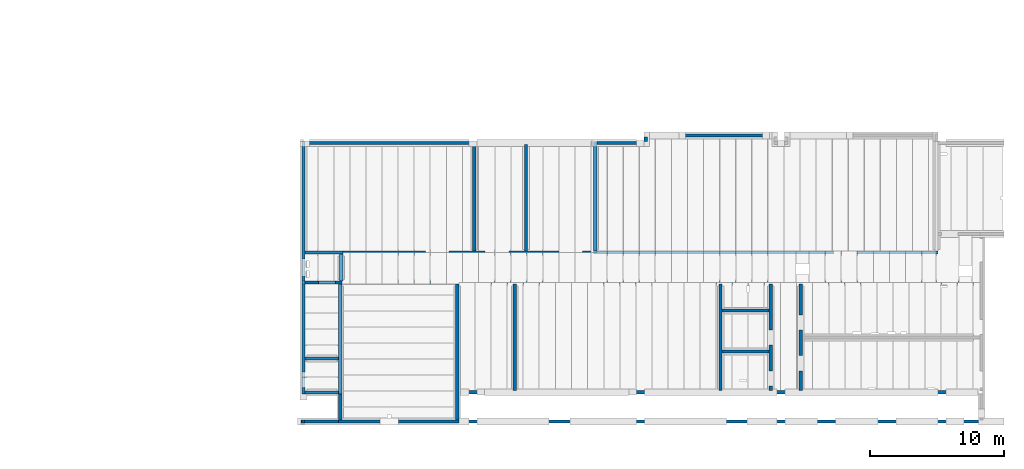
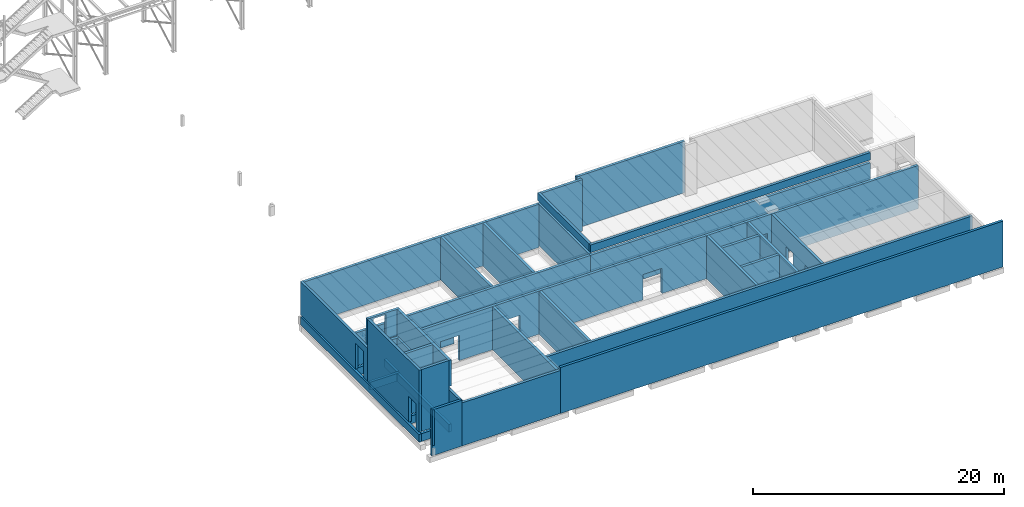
# One storey, part 11 of 24: 41 walls, 17 openings.
"""IFC2X3 building model written with IfcOpenShell, lengths in metres."""

import ifcopenshell
import ifcopenshell.guid

model = None  # the IFC model being written
_history = None  # IfcOwnerHistory: only IFC2X3 demands one
_inside = {}  # id of a spatial element -> (the spatial element, [elements in it])
_under = {}  # id of a project, library or spatial element -> (it, [spatial elements below it])
_declared = {}  # id of a project -> (the project, [libraries it declares])
_typed = {}  # id of a type object -> (the type object, [elements of that type])
_made_of = {}  # id of a material, layer set ... -> (it, [elements and type objects made of it])


def new_model(schema):
    """Start an empty IFC model of exactly this schema.

    Asked for "IFC4X3", IfcOpenShell would pick the latest addendum, in which some entities
    have other attributes; the version numbers below select the first issue.
    IFC2X3 requires an IfcOwnerHistory on every rooted entity: one is made here for all.
    """
    global model, _history
    if schema == "IFC4X3":
        model = ifcopenshell.file(schema_version=(4, 3, 0, 0))
    else:
        model = ifcopenshell.file(schema=schema)
    _inside.clear()
    _under.clear()
    _declared.clear()
    _typed.clear()
    _made_of.clear()
    _history = None
    if model.schema == "IFC2X3":
        org = make("IfcOrganization", Name="unknown")
        user = make(
            "IfcPersonAndOrganization",
            ThePerson=make("IfcPerson", FamilyName="unknown"),
            TheOrganization=org,
        )
        app = make(
            "IfcApplication",
            ApplicationDeveloper=org,
            Version="unknown",
            ApplicationFullName="unknown",
            ApplicationIdentifier="unknown",
        )
        _history = make(
            "IfcOwnerHistory",
            OwningUser=user,
            OwningApplication=app,
            ChangeAction="ADDED",
            CreationDate=0,
        )
    return model


def make(cls, **values):
    """One entity of the class cls with the attributes given. An attribute that is None is left unset."""
    return model.create_entity(
        cls, **{name: value for name, value in values.items() if value is not None}
    )


def entity(cls, *values):
    """Any entity or typed value of the class cls, its attributes in the order of the schema. None: left unset."""
    e = model.create_entity(cls)
    for i, value in enumerate(values):
        if value is not None:
            e[i] = value
    return e


def rooted(cls, **values):
    """An entity with a GlobalId (a new one), such as an element, a storey or a relation."""
    return make(cls, GlobalId=ifcopenshell.guid.new(), OwnerHistory=_history, **values)


def si_unit(unit_type, name, prefix=None):
    """IfcSIUnit, for example si_unit("LENGTHUNIT", "METRE", prefix="MILLI")."""
    return make("IfcSIUnit", UnitType=unit_type, Prefix=prefix, Name=name)


def converted_unit(unit_type, name, factor, base, dimensions=None, offset=None):
    """IfcConversionBasedUnit, such as the inch: factor (a typed value) times the base unit."""
    return make(
        "IfcConversionBasedUnit"
        if offset is None
        else "IfcConversionBasedUnitWithOffset",
        ConversionOffset=offset,
        Dimensions=None
        if dimensions is None
        else entity("IfcDimensionalExponents", *dimensions),
        UnitType=unit_type,
        Name=name,
        ConversionFactor=make(
            "IfcMeasureWithUnit", ValueComponent=factor, UnitComponent=base
        ),
    )


def derived_unit(unit_type, elements):
    """IfcDerivedUnit: a product of units, each with its exponent."""
    return make(
        "IfcDerivedUnit",
        Elements=[
            make("IfcDerivedUnitElement", Unit=unit, Exponent=power)
            for unit, power in elements
        ],
        UnitType=unit_type,
    )


def assignment(units):
    """IfcUnitAssignment: the units of a project."""
    return None if units is None else make("IfcUnitAssignment", Units=units)


def point(xyz):
    """IfcCartesianPoint."""
    return None if xyz is None else make("IfcCartesianPoint", Coordinates=xyz)


def direction(xyz):
    """IfcDirection."""
    return None if xyz is None else make("IfcDirection", DirectionRatios=xyz)


def frame(location, z_axis=None, x_axis=None):
    """IfcAxis2Placement3D, a coordinate frame: its origin and axes. An axis left out is left unset."""
    return make(
        "IfcAxis2Placement3D",
        Location=point(location),
        Axis=direction(z_axis),
        RefDirection=direction(x_axis),
    )


def frame_2d(location, x_axis=None):
    """IfcAxis2Placement2D, a coordinate frame in the plane: its origin and x axis."""
    return make(
        "IfcAxis2Placement2D", Location=point(location), RefDirection=direction(x_axis)
    )


def origin():
    """The frame at (0, 0, 0) with its axes left unset."""
    return frame((0.0, 0.0, 0.0))


def origin_with_axes():
    """The frame at (0, 0, 0) with the z axis (0, 0, 1) and the x axis (1, 0, 0) written out."""
    return frame((0.0, 0.0, 0.0), z_axis=(0.0, 0.0, 1.0), x_axis=(1.0, 0.0, 0.0))


def place(relative_to, where):
    """IfcLocalPlacement: puts the frame where relative to a parent placement (None: the world)."""
    return make(
        "IfcLocalPlacement", PlacementRelTo=relative_to, RelativePlacement=where
    )


def context(
    kind, dimensions, precision=None, world=None, true_north=None, identifier=None
):
    """IfcGeometricRepresentationContext, for example the 3D "Model" context."""
    return make(
        "IfcGeometricRepresentationContext",
        ContextIdentifier=identifier,
        ContextType=kind,
        CoordinateSpaceDimension=dimensions,
        Precision=precision,
        WorldCoordinateSystem=world,
        TrueNorth=true_north,
    )


def subcontext(parent, identifier, kind, view, scale=None):
    """IfcGeometricRepresentationSubContext, for example "Body" below "Model"."""
    return make(
        "IfcGeometricRepresentationSubContext",
        ContextIdentifier=identifier,
        ContextType=kind,
        ParentContext=parent,
        TargetScale=scale,
        TargetView=view,
    )


def project(units=None, contexts=None):
    """IfcProject with its units and contexts."""
    return rooted(
        "IfcProject",
        Name="project",
        RepresentationContexts=contexts,
        UnitsInContext=assignment(units),
    )


def spatial(cls, under=None, at=None, **own):
    """A site, building, storey or space (cls), placed at a placement, below another one or the project."""
    s = rooted(cls, ObjectPlacement=at, **own)
    if under is not None:
        _under.setdefault(under.id(), (under, []))[1].append(s)
    return s


def polyline(points):
    """IfcPolyline through the points."""
    return make("IfcPolyline", Points=[point(p) for p in points])


def profile(cls, at=None, kind="AREA", **sizes):
    """A parametric profile (cls). Its sizes go by their IFC names, for example OverallWidth=200.0."""
    return make(cls, ProfileType=kind, Position=at, **sizes)


def rectangle(**sizes):
    """IfcRectangleProfileDef."""
    return profile("IfcRectangleProfileDef", **sizes)


def outline(outer, holes=None, kind="AREA"):
    """IfcArbitraryClosedProfileDef: a profile drawn as a closed curve; with holes, ...WithVoids."""
    if holes is None:
        return make("IfcArbitraryClosedProfileDef", ProfileType=kind, OuterCurve=outer)
    return make(
        "IfcArbitraryProfileDefWithVoids",
        ProfileType=kind,
        OuterCurve=outer,
        InnerCurves=holes,
    )


def extrude(swept, where, along, depth):
    """IfcExtrudedAreaSolid: the profile swept, set in the frame where, extruded along a direction by depth."""
    return make(
        "IfcExtrudedAreaSolid",
        SweptArea=swept,
        Position=where,
        ExtrudedDirection=direction(along),
        Depth=depth,
    )


def shape(context_of_items, identifier, shape_type, items):
    """IfcShapeRepresentation: the items that make up one representation, for example the "Body"."""
    return make(
        "IfcShapeRepresentation",
        ContextOfItems=context_of_items,
        RepresentationIdentifier=identifier,
        RepresentationType=shape_type,
        Items=items,
    )


def material(Name=None, Category=None):
    """IfcMaterial."""
    return make("IfcMaterial", Name=Name, Category=Category)


def layer(
    of_material, thickness, ventilated=None, Name=None, Category=None, Priority=None
):
    """IfcMaterialLayer: one layer of a wall or slab, of a material (None: an air gap)."""
    return make(
        "IfcMaterialLayer",
        Material=of_material,
        LayerThickness=thickness,
        IsVentilated=ventilated,
        Name=Name,
        Category=Category,
        Priority=Priority,
    )


def layer_set(layers, Name=None):
    """IfcMaterialLayerSet."""
    return make("IfcMaterialLayerSet", MaterialLayers=layers, LayerSetName=Name)


def layer_usage(for_layer_set, set_direction, sense, offset, extent=None):
    """IfcMaterialLayerSetUsage: how a layer set lies in its element."""
    return make(
        "IfcMaterialLayerSetUsage",
        ForLayerSet=for_layer_set,
        LayerSetDirection=set_direction,
        DirectionSense=sense,
        OffsetFromReferenceLine=offset,
        ReferenceExtent=extent,
    )


def made_of(thing, what):
    """Note that an element or type object is made of a material, layer set ...; save() writes the relation."""
    if what is not None:
        _made_of.setdefault(what.id(), (what, []))[1].append(thing)
    return thing


def element(
    cls,
    number,
    at=None,
    inside=None,
    cuts=None,
    type_object=None,
    material=None,
    context=None,
    identifier="Body",
    shape_type=None,
    held_by="IfcProductDefinitionShape",
    body=None,
    shapes=None,
    **own,
):
    """One element of the class cls, such as IfcWall. Its Tag is "e" and its number.

    at: its placement. inside: the storey or other place that contains it. cuts: it is an
    opening in that element (IfcRelVoidsElement). A single representation is given by context,
    identifier, shape_type and body (its items); several are given by shapes. held_by: the class
    of the entity that holds the representations. save() writes the other relations.
    """
    e = rooted(cls, Tag="e%d" % number, ObjectPlacement=at, **own)
    if body is not None:
        shapes = [shape(context, identifier, shape_type, body)]
    if shapes is not None:
        e.Representation = make(held_by, Representations=shapes)
    if inside is not None:
        _inside.setdefault(inside.id(), (inside, []))[1].append(e)
    if cuts is not None:
        rooted(
            "IfcRelVoidsElement", RelatingBuildingElement=cuts, RelatedOpeningElement=e
        )
    if type_object is not None:
        _typed.setdefault(type_object.id(), (type_object, []))[1].append(e)
    return made_of(e, material)


def aggregate(whole, parts):
    """IfcRelAggregates: a whole, such as a stair, and the parts it consists of."""
    return rooted("IfcRelAggregates", RelatingObject=whole, RelatedObjects=parts)


def save(model, path):
    """Write the relations noted so far, then the file.

    IfcRelAggregates (storeys below a building ...), IfcRelContainedInSpatialStructure (elements
    in a storey), IfcRelDefinesByType, IfcRelAssociatesMaterial and IfcRelDeclares: one each for
    every whole, place, type object, material and project.
    """
    for whole, parts in _under.values():
        aggregate(whole, parts)
    for where, things in _inside.values():
        rooted(
            "IfcRelContainedInSpatialStructure",
            RelatedElements=things,
            RelatingStructure=where,
        )
    for kind, things in _typed.values():
        rooted("IfcRelDefinesByType", RelatedObjects=things, RelatingType=kind)
    for what, things in _made_of.values():
        rooted("IfcRelAssociatesMaterial", RelatedObjects=things, RelatingMaterial=what)
    for by, libraries in _declared.values():
        rooted("IfcRelDeclares", RelatingContext=by, RelatedDefinitions=libraries)
    model.write(path)


model = new_model("IFC2X3")

# Units and contexts
model_context = context("Model", 3, precision=1e-05, world=origin())
body_context = subcontext(model_context, "Body", "Model", "MODEL_VIEW")
ifc_project = project(units=[si_unit("LENGTHUNIT", "METRE"), si_unit("AREAUNIT", "SQUARE_METRE"), si_unit("VOLUMEUNIT", "CUBIC_METRE"), si_unit("MASSUNIT", "GRAM", prefix="KILO"), converted_unit("PLANEANGLEUNIT", "DEGREE", entity("IfcPlaneAngleMeasure", 0.0174532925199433), si_unit("PLANEANGLEUNIT", "RADIAN"), dimensions=[0, 0, 0, 0, 0, 0, 0]), derived_unit("THERMALTRANSMITTANCEUNIT", [(si_unit("POWERUNIT", "WATT"), 1), (si_unit("THERMODYNAMICTEMPERATUREUNIT", "KELVIN"), -1), (si_unit("LENGTHUNIT", "METRE"), -2)]), derived_unit("VOLUMETRICFLOWRATEUNIT", [(si_unit("LENGTHUNIT", "METRE"), 3), (converted_unit("TIMEUNIT", "hour", entity("IfcTimeMeasure", 3600.0), si_unit("TIMEUNIT", "SECOND"), dimensions=[0, 0, 1, 0, 0, 0, 0]), -1), (si_unit("LENGTHUNIT", "METRE"), -1)])], contexts=[model_context])

# Site, building, storey
site_placement = place(None, origin())
site = spatial("IfcSite", under=ifc_project, at=site_placement, Name="TWP_Speiseverteilzentrum SBW VZ II", CompositionType="ELEMENT")
building_placement = place(site_placement, origin())
building = spatial("IfcBuilding", under=site, at=building_placement, Name="Speiseverteilzentrum SBW VZ II", CompositionType="ELEMENT")
storey_placement = place(building_placement, frame((0.0, 0.0, 0.6957)))
storey = spatial("IfcBuildingStorey", under=building, at=storey_placement, Name="EG_Technik_FFB", CompositionType="ELEMENT", Elevation=0.6957)

# Walls
ifc_material_1 = material(Name="KS-XL-16-1.8/DM")
ifc_layer_1 = layer(ifc_material_1, 0.24)
ifc_layer_set_1 = layer_set([ifc_layer_1], Name="HI_WAN_MWK_0,240_xxx")
ifc_layer_usage_1 = layer_usage(ifc_layer_set_1, "AXIS2", "POSITIVE", -0.24)
wall_1_placement = place(storey_placement, frame((69.3400000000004, 42.1999999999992, 0.785)))
element("IfcWallStandardCase", 1, at=wall_1_placement, inside=storey, material=ifc_layer_usage_1, Name="HI_WAN_MWK_0,240_xxx", context=body_context, shape_type="SweptSolid", body=[
    extrude(rectangle(XDim=2.81999999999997, YDim=0.24, at=frame_2d((1.40999999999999, 0.12), x_axis=(1.0, 0.0))), origin_with_axes(), (0.0, 0.0, 1.0), 3.215),
])
ifc_material_2 = material(Name="KS-XL-16-1.8/DM")
ifc_layer_2 = layer(ifc_material_2, 0.24)
ifc_layer_set_2 = layer_set([ifc_layer_2], Name="HI_WAN_MWK_0,240_xxx")
ifc_layer_usage_2 = layer_usage(ifc_layer_set_2, "AXIS2", "POSITIVE", -0.24)
wall_2_placement = place(storey_placement, frame((69.3400000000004, 42.1999999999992, -0.19)))
element("IfcWallStandardCase", 2, at=wall_2_placement, inside=storey, material=ifc_layer_usage_2, Name="HI_WAN_MWK_0,240_xxx", context=body_context, shape_type="SweptSolid", body=[
    extrude(rectangle(XDim=2.81999999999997, YDim=0.24, at=frame_2d((1.40999999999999, 0.12), x_axis=(1.0, 0.0))), origin_with_axes(), (0.0, 0.0, 1.0), 0.7551),
])
ifc_material_3 = material(Name="KS-XL-16-1.8/DM")
ifc_layer_3 = layer(ifc_material_3, 0.24)
ifc_layer_set_3 = layer_set([ifc_layer_3], Name="HI_WAN_MWK_0,240_xxx")
ifc_layer_usage_3 = layer_usage(ifc_layer_set_3, "AXIS2", "POSITIVE", -0.24)
wall_3_placement = place(storey_placement, frame((69.1000000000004, 50.6299999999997, -0.19), z_axis=(0.0, 0.0, 1.0), x_axis=(0.0, -1.0, 0.0)))
element("IfcWallStandardCase", 3, at=wall_3_placement, inside=storey, material=ifc_layer_usage_3, Name="HI_WAN_MWK_0,240_xxx", context=body_context, shape_type="SweptSolid", body=[
    extrude(rectangle(XDim=18.877747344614, YDim=0.24, at=frame_2d((9.43887367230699, 0.12), x_axis=(1.0, 0.0))), origin_with_axes(), (0.0, 0.0, 1.0), 0.7551),
])

# Wall, opening
ifc_material_4 = material(Name="KS-XL-16-1.8/DM")
ifc_layer_4 = layer(ifc_material_4, 0.24)
ifc_layer_set_4 = layer_set([ifc_layer_4], Name="HI_WAN_MWK_0,240_xxx")
ifc_layer_usage_4 = layer_usage(ifc_layer_set_4, "AXIS2", "POSITIVE", -0.24)
wall_4_placement = place(storey_placement, frame((69.1000000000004, 50.6299999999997, 0.785), z_axis=(0.0, 0.0, 1.0), x_axis=(0.0, -1.0, 0.0)))
wall_4 = element("IfcWallStandardCase", 4, at=wall_4_placement, inside=storey, material=ifc_layer_usage_4, Name="HI_WAN_MWK_0,240_xxx", context=body_context, shape_type="SweptSolid", body=[
    extrude(rectangle(XDim=10.6700000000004, YDim=0.24, at=frame_2d((5.33500000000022, 0.12), x_axis=(1.0, 0.0))), origin_with_axes(), (0.0, 0.0, 1.0), 3.215),
])
opening_1_placement = place(wall_4_placement, frame((8.79000000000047, 0.0, 0.0), z_axis=(0.0, 1.0, 0.0), x_axis=(0.0, 0.0, 1.0)))
element("IfcOpeningElement", 5, at=opening_1_placement, cuts=wall_4, Name="Mauerwerkswand", ObjectType="SOLIDWALL", context=body_context, shape_type="SweptSolid", body=[
    extrude(outline(polyline([(2.51, 1.26), (2.51, 0.0), (0.0, 0.0), (0.0, 1.26), (2.51, 1.26)])), origin_with_axes(), (0.0, 0.0, 1.0), 0.24),
])

# Walls
ifc_material_5 = material(Name="KS-XL-16-1.8/DM")
ifc_layer_5 = layer(ifc_material_5, 0.24)
ifc_layer_set_5 = layer_set([ifc_layer_5], Name="HI_WAN_MWK_0,240_xxx")
ifc_layer_usage_5 = layer_usage(ifc_layer_set_5, "AXIS2", "POSITIVE", -0.24)
wall_5_placement = place(storey_placement, frame((80.8200000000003, 31.7699999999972, -0.19)))
element("IfcWallStandardCase", 6, at=wall_5_placement, inside=storey, material=ifc_layer_usage_5, Name="HI_WAN_MWK_0,240_xxx", context=body_context, shape_type="SweptSolid", body=[
    extrude(rectangle(XDim=39.1400000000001, YDim=0.24, at=frame_2d((19.57, 0.12), x_axis=(1.0, 0.0))), origin_with_axes(), (0.0, 0.0, 1.0), 4.19),
])
ifc_material_6 = material(Name="KS-XL-16-1.8/DM")
ifc_layer_6 = layer(ifc_material_6, 0.24)
ifc_layer_set_6 = layer_set([ifc_layer_6], Name="HI_WAN_MWK_0,240_xxx")
ifc_layer_usage_6 = layer_usage(ifc_layer_set_6, "AXIS2", "POSITIVE", -0.24)
wall_6_placement = place(storey_placement, frame((100.24, 39.9599999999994, -0.19), z_axis=(0.0, 0.0, 1.0), x_axis=(0.0, -1.0, 0.0)))
element("IfcWallStandardCase", 7, at=wall_6_placement, inside=storey, material=ifc_layer_usage_6, Name="HI_WAN_MWK_0,240_xxx", context=body_context, shape_type="SweptSolid", body=[
    extrude(rectangle(XDim=7.95000000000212, YDim=0.24, at=frame_2d((3.97500000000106, 0.12), x_axis=(1.0, 0.0))), origin_with_axes(), (0.0, 0.0, 1.0), 4.19),
])
ifc_material_7 = material(Name="KS-XL-16-1.8/DM")
ifc_layer_7 = layer(ifc_material_7, 0.24)
ifc_layer_set_7 = layer_set([ifc_layer_7], Name="HI_WAN_MWK_0,240_xxx")
ifc_layer_usage_7 = layer_usage(ifc_layer_set_7, "AXIS2", "POSITIVE", -0.24)
wall_7_placement = place(storey_placement, frame((80.5800000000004, 39.9599999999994, -0.19), z_axis=(0.0, 0.0, 1.0), x_axis=(0.0, -1.0, 0.0)))
element("IfcWallStandardCase", 8, at=wall_7_placement, inside=storey, material=ifc_layer_usage_7, Name="HI_WAN_MWK_0,240_xxx", context=body_context, shape_type="SweptSolid", body=[
    extrude(rectangle(XDim=10.1300000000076, YDim=0.24, at=frame_2d((5.06500000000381, 0.12), x_axis=(1.0, 0.0))), origin_with_axes(), (0.0, 0.0, 1.0), 4.19),
])
ifc_material_8 = material(Name="KS-XL-16-1.8/DM")
ifc_layer_8 = layer(ifc_material_8, 0.24)
ifc_layer_set_8 = layer_set([ifc_layer_8], Name="HI_WAN_MWK_0,240_xxx")
ifc_layer_usage_8 = layer_usage(ifc_layer_set_8, "AXIS2", "POSITIVE", -0.24)
wall_8_placement = place(storey_placement, frame((80.8400000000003, 29.8299999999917, -0.19), z_axis=(0.0, 0.0, 1.0), x_axis=(-1.0, 0.0, 0.0)))
element("IfcWallStandardCase", 9, at=wall_8_placement, inside=storey, material=ifc_layer_usage_8, Name="HI_WAN_MWK_0,240_xxx", context=body_context, shape_type="SweptSolid", body=[
    extrude(rectangle(XDim=9.02, YDim=0.24, at=frame_2d((4.51, 0.12), x_axis=(1.0, 0.0))), origin_with_axes(), (0.0, 0.0, 1.0), 4.19),
])
ifc_material_9 = material(Name="KS-XL-16-1.8/DM")
ifc_layer_9 = layer(ifc_material_9, 0.24)
ifc_layer_set_9 = layer_set([ifc_layer_9], Name="HI_WAN_MWK_0,240_xxx")
ifc_layer_usage_9 = layer_usage(ifc_layer_set_9, "AXIS2", "POSITIVE", -0.24)
wall_9_placement = place(storey_placement, frame((82.0900000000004, 42.4399999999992, -0.19), z_axis=(0.0, 0.0, 1.0), x_axis=(0.0, 1.0, 0.0)))
element("IfcWallStandardCase", 10, at=wall_9_placement, inside=storey, material=ifc_layer_usage_9, Name="HI_WAN_MWK_0,240_xxx", context=body_context, shape_type="SweptSolid", body=[
    extrude(rectangle(XDim=7.95000000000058, YDim=0.24, at=frame_2d((3.97500000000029, 0.12), x_axis=(1.0, 0.0))), origin_with_axes(), (0.0, 0.0, 1.0), 4.19),
])

# Wall, openings
ifc_material_10 = material(Name="KS-XL-16-1.8/DM")
ifc_layer_10 = layer(ifc_material_10, 0.24)
ifc_layer_set_10 = layer_set([ifc_layer_10], Name="HI_WAN_MWK_0,240_xxx")
ifc_layer_usage_10 = layer_usage(ifc_layer_set_10, "AXIS2", "POSITIVE", -0.24)
wall_10_placement = place(storey_placement, frame((106.22, 39.9599999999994, -0.19), z_axis=(0.0, 0.0, 1.0), x_axis=(0.0, -1.0, 0.0)))
wall_10 = element("IfcWallStandardCase", 11, at=wall_10_placement, inside=storey, material=ifc_layer_usage_10, Name="HI_WAN_MWK_0,240_xxx", context=body_context, shape_type="SweptSolid", body=[
    extrude(rectangle(XDim=7.95000000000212, YDim=0.24, at=frame_2d((3.97500000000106, 0.12), x_axis=(1.0, 0.0))), origin_with_axes(), (0.0, 0.0, 1.0), 4.19),
])
opening_2_placement = place(wall_10_placement, frame((6.46250000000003, 0.24, 0.0), z_axis=(0.0, -1.0, 0.0), x_axis=(0.0, 0.0, 1.0)))
element("IfcOpeningElement", 12, at=opening_2_placement, cuts=wall_10, Name="Mauerwerkswand", ObjectType="SOLIDWALL", context=body_context, shape_type="SweptSolid", body=[
    extrude(outline(polyline([(2.45, 1.135), (2.45, 0.0), (0.0, 0.0), (0.0, 1.135), (2.45, 1.135)])), origin_with_axes(), (0.0, 0.0, 1.0), 0.24),
])
opening_3_placement = place(wall_10_placement, frame((3.4200000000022, 0.24, 0.0), z_axis=(0.0, -1.0, 0.0), x_axis=(0.0, 0.0, 1.0)))
element("IfcOpeningElement", 13, at=opening_3_placement, cuts=wall_10, Name="Mauerwerkswand", ObjectType="SOLIDWALL", context=body_context, shape_type="SweptSolid", body=[
    extrude(outline(polyline([(2.45, 1.135), (2.45, 0.0), (0.0, 0.0), (0.0, 1.135), (2.45, 1.135)])), origin_with_axes(), (0.0, 0.0, 1.0), 0.24),
])

# Walls
ifc_material_11 = material(Name="KS-XL-16-1.8/DM")
ifc_layer_11 = layer(ifc_material_11, 0.24)
ifc_layer_set_11 = layer_set([ifc_layer_11], Name="HI_WAN_MWK_0,240_xxx")
ifc_layer_usage_11 = layer_usage(ifc_layer_set_11, "AXIS2", "POSITIVE", -0.24)
wall_11_placement = place(storey_placement, frame((71.8400000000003, 39.9599999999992, 0.785), z_axis=(0.0, 0.0, 1.0), x_axis=(0.0, -1.0, 0.0)))
element("IfcWallStandardCase", 14, at=wall_11_placement, inside=storey, material=ifc_layer_usage_11, Name="HI_WAN_MWK_0,240_xxx", context=body_context, shape_type="SweptSolid", body=[
    extrude(rectangle(XDim=8.20774734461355, YDim=0.24, at=frame_2d((4.10387367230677, 0.12), x_axis=(1.0, 0.0))), origin_with_axes(), (0.0, 0.0, 1.0), 3.215),
])
ifc_material_12 = material(Name="KS-XL-16-1.8/DM")
ifc_layer_12 = layer(ifc_material_12, 0.24)
ifc_layer_set_12 = layer_set([ifc_layer_12], Name="HI_WAN_MWK_0,240_xxx")
ifc_layer_usage_12 = layer_usage(ifc_layer_set_12, "AXIS2", "POSITIVE", -0.24)
wall_12_placement = place(storey_placement, frame((71.8400000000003, 39.9599999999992, -0.19), z_axis=(0.0, 0.0, 1.0), x_axis=(0.0, -1.0, 0.0)))
element("IfcWallStandardCase", 15, at=wall_12_placement, inside=storey, material=ifc_layer_usage_12, Name="HI_WAN_MWK_0,240_xxx", context=body_context, shape_type="SweptSolid", body=[
    extrude(rectangle(XDim=8.20774734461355, YDim=0.24, at=frame_2d((4.10387367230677, 0.12), x_axis=(1.0, 0.0))), origin_with_axes(), (0.0, 0.0, 1.0), 0.7551),
])
ifc_material_13 = material(Name="KS-XL-16-1.8/DM")
ifc_layer_13 = layer(ifc_material_13, 0.24)
ifc_layer_set_13 = layer_set([ifc_layer_13], Name="HI_WAN_MWK_0,240_xxx")
ifc_layer_usage_13 = layer_usage(ifc_layer_set_13, "AXIS2", "POSITIVE", -0.24)
wall_13_placement = place(storey_placement, frame((71.8400000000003, 31.7522526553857, -0.19), z_axis=(0.0, 0.0, 1.0), x_axis=(0.0, -1.0, 0.0)))
element("IfcWallStandardCase", 16, at=wall_13_placement, inside=storey, material=ifc_layer_usage_13, Name="HI_WAN_MWK_0,240_xxx", context=body_context, shape_type="SweptSolid", body=[
    extrude(rectangle(XDim=1.92225265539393, YDim=0.24, at=frame_2d((0.961126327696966, 0.12), x_axis=(1.0, 0.0))), origin_with_axes(), (0.0, 0.0, 1.0), 4.19),
])
ifc_material_14 = material(Name="KS-XL-16-1.8/DM")
ifc_layer_14 = layer(ifc_material_14, 0.24)
ifc_layer_set_14 = layer_set([ifc_layer_14], Name="HI_WAN_MWK_0,240_xxx")
ifc_layer_usage_14 = layer_usage(ifc_layer_set_14, "AXIS2", "POSITIVE", -0.24)
wall_14_placement = place(storey_placement, frame((85.9600000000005, 42.4399999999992, -0.19), z_axis=(0.0, 0.0, 1.0), x_axis=(0.0, 1.0, 0.0)))
element("IfcWallStandardCase", 17, at=wall_14_placement, inside=storey, material=ifc_layer_usage_14, Name="HI_WAN_MWK_0,240_xxx", context=body_context, shape_type="SweptSolid", body=[
    extrude(rectangle(XDim=7.95000000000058, YDim=0.24, at=frame_2d((3.97500000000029, 0.12), x_axis=(1.0, 0.0))), origin_with_axes(), (0.0, 0.0, 1.0), 4.19),
])
ifc_material_15 = material(Name="KS-XL-16-1.8/DM")
ifc_layer_15 = layer(ifc_material_15, 0.239999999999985)
ifc_layer_set_15 = layer_set([ifc_layer_15], Name="HI_WAN_MWK_0,240_xxx")
ifc_layer_usage_15 = layer_usage(ifc_layer_set_15, "AXIS2", "POSITIVE", -0.24)
wall_15_placement = place(storey_placement, frame((94.6516331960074, 50.94, 0.0), z_axis=(0.0, 0.0, 1.0), x_axis=(-3.2859163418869e-13, -1.0, 0.0)))
element("IfcWallStandardCase", 18, at=wall_15_placement, inside=storey, material=ifc_layer_usage_15, Name="HI_WAN_MWK_0,240_xxx", context=body_context, shape_type="SweptSolid", body=[
    extrude(rectangle(XDim=0.310000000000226, YDim=0.239999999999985, at=frame_2d((0.155000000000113, 0.119999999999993), x_axis=(1.0, 0.0))), origin_with_axes(), (0.0, 0.0, 1.0), 5.0),
])

# Wall, opening
ifc_material_16 = material(Name="KS-XL-16-1.8/DM")
ifc_layer_16 = layer(ifc_material_16, 0.24)
ifc_layer_set_16 = layer_set([ifc_layer_16], Name="HI_WAN_MWK_0,240_xxx")
ifc_layer_usage_16 = layer_usage(ifc_layer_set_16, "AXIS2", "POSITIVE", -0.24)
wall_16_placement = place(storey_placement, frame((69.1000000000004, 39.9599999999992, 0.785), z_axis=(0.0, 0.0, 1.0), x_axis=(0.0, -1.0, 0.0)))
wall_16 = element("IfcWallStandardCase", 19, at=wall_16_placement, inside=storey, material=ifc_layer_usage_16, Name="HI_WAN_MWK_0,240_xxx", context=body_context, shape_type="SweptSolid", body=[
    extrude(rectangle(XDim=8.20774734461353, YDim=0.24, at=frame_2d((4.10387367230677, 0.12), x_axis=(1.0, 0.0))), origin_with_axes(), (0.0, 0.0, 1.0), 6.015),
])
opening_4_placement = place(wall_16_placement, frame((6.57274734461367, 0.0, 0.0), z_axis=(0.0, 1.0, 0.0), x_axis=(0.0, 0.0, 1.0)))
element("IfcOpeningElement", 20, at=opening_4_placement, cuts=wall_16, Name="Mauerwerkswand", ObjectType="SOLIDWALL", context=body_context, shape_type="SweptSolid", body=[
    extrude(outline(polyline([(2.51, 1.135), (2.51, 0.0), (0.0, 0.0), (0.0, 1.135), (2.51, 1.135)])), origin_with_axes(), (0.0, 0.0, 1.0), 0.24),
])

# Walls
ifc_material_17 = material(Name="KS-XL-16-1.8/DM")
ifc_layer_17 = layer(ifc_material_17, 0.24)
ifc_layer_set_17 = layer_set([ifc_layer_17], Name="HI_WAN_MWK_0,240_xxx")
ifc_layer_usage_17 = layer_usage(ifc_layer_set_17, "AXIS2", "POSITIVE", -0.24)
wall_17_placement = place(storey_placement, frame((71.8400000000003, 31.9922526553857, 0.785), z_axis=(0.0, 0.0, 1.0), x_axis=(-1.0, 0.0, 0.0)))
element("IfcWallStandardCase", 21, at=wall_17_placement, inside=storey, material=ifc_layer_usage_17, Name="HI_WAN_MWK_0,240_xxx", context=body_context, shape_type="SweptSolid", body=[
    extrude(rectangle(XDim=2.49999999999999, YDim=0.24, at=frame_2d((1.24999999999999, 0.12), x_axis=(1.0, 0.0))), origin_with_axes(), (0.0, 0.0, 1.0), 6.015),
])
ifc_material_18 = material(Name="KS-XL-16-1.8/DM")
ifc_layer_18 = layer(ifc_material_18, 0.24)
ifc_layer_set_18 = layer_set([ifc_layer_18], Name="HI_WAN_MWK_0,240_xxx")
ifc_layer_usage_18 = layer_usage(ifc_layer_set_18, "AXIS2", "POSITIVE", -0.24)
wall_18_placement = place(storey_placement, frame((71.8400000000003, 34.5299999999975, 0.785), z_axis=(0.0, 0.0, 1.0), x_axis=(-1.0, 0.0, 0.0)))
element("IfcWallStandardCase", 22, at=wall_18_placement, inside=storey, material=ifc_layer_usage_18, Name="HI_WAN_MWK_0,240_xxx", context=body_context, shape_type="SweptSolid", body=[
    extrude(rectangle(XDim=2.49999999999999, YDim=0.24, at=frame_2d((1.24999999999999, 0.12), x_axis=(1.0, 0.0))), origin_with_axes(), (0.0, 0.0, 1.0), 6.015),
])
ifc_material_19 = material(Name="KS-XL-16-1.8/DM")
ifc_layer_19 = layer(ifc_material_19, 0.24)
ifc_layer_set_19 = layer_set([ifc_layer_19], Name="HI_WAN_MWK_0,240_xxx")
ifc_layer_usage_19 = layer_usage(ifc_layer_set_19, "AXIS2", "POSITIVE", -0.24)
wall_19_placement = place(storey_placement, frame((72.0800000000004, 40.1999999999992, -0.19), z_axis=(0.0, 0.0, 1.0), x_axis=(-1.0, 0.0, 0.0)))
element("IfcWallStandardCase", 23, at=wall_19_placement, inside=storey, material=ifc_layer_usage_19, Name="HI_WAN_MWK_0,240_xxx", context=body_context, shape_type="SweptSolid", body=[
    extrude(rectangle(XDim=2.73999999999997, YDim=0.24, at=frame_2d((1.36999999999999, 0.12), x_axis=(1.0, 0.0))), origin_with_axes(), (0.0, 0.0, 1.0), 0.7551),
])

# Wall, opening
ifc_material_20 = material(Name="KS-XL-16-1.8/DM")
ifc_layer_20 = layer(ifc_material_20, 0.24)
ifc_layer_set_20 = layer_set([ifc_layer_20], Name="HI_WAN_MWK_0,240_xxx")
ifc_layer_usage_20 = layer_usage(ifc_layer_set_20, "AXIS2", "POSITIVE", -0.24)
wall_20_placement = place(storey_placement, frame((69.3400000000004, 39.9599999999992, 0.785)))
wall_20 = element("IfcWallStandardCase", 24, at=wall_20_placement, inside=storey, material=ifc_layer_usage_20, Name="HI_WAN_MWK_0,240_xxx", context=body_context, shape_type="SweptSolid", body=[
    extrude(rectangle(XDim=2.73999999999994, YDim=0.24, at=frame_2d((1.36999999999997, 0.12), x_axis=(1.0, 0.0))), origin_with_axes(), (0.0, 0.0, 1.0), 3.215),
])
opening_5_placement = place(wall_20_placement, frame((2.27499999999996, 0.24, 0.0), z_axis=(0.0, -1.0, 0.0), x_axis=(0.0, 0.0, 1.0)))
element("IfcOpeningElement", 25, at=opening_5_placement, cuts=wall_20, Name="Mauerwerkswand", ObjectType="SOLIDWALL", context=body_context, shape_type="SweptSolid", body=[
    extrude(outline(polyline([(2.51, 1.26), (2.51, 0.0), (0.0, 0.0), (0.0, 1.26), (2.51, 1.26)])), origin_with_axes(), (0.0, 0.0, 1.0), 0.24),
])

# Wall, openings
ifc_material_21 = material(Name="KS-XL-16-1.8/DM")
ifc_layer_21 = layer(ifc_material_21, 0.24)
ifc_layer_set_21 = layer_set([ifc_layer_21], Name="HI_WAN_MWK_0,240_xxx")
ifc_layer_usage_21 = layer_usage(ifc_layer_set_21, "AXIS2", "POSITIVE", -0.24)
wall_21_placement = place(storey_placement, frame((119.72, 40.1999999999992, -0.19), z_axis=(0.0, 0.0, 1.0), x_axis=(-1.0, 0.0, 0.0)))
wall_21 = element("IfcWallStandardCase", 26, at=wall_21_placement, inside=storey, material=ifc_layer_usage_21, Name="HI_WAN_MWK_0,240_xxx", context=body_context, shape_type="SweptSolid", body=[
    extrude(rectangle(XDim=47.6399999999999, YDim=0.24, at=frame_2d((23.82, 0.12), x_axis=(1.0, 0.0))), origin_with_axes(), (0.0, 0.0, 1.0), 4.19),
])
opening_6_placement = place(wall_21_placement, frame((15.1299999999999, 0.24, 0.0), z_axis=(0.0, -1.0, 0.0), x_axis=(0.0, 0.0, 1.0)))
element("IfcOpeningElement", 27, at=opening_6_placement, cuts=wall_21, Name="Mauerwerkswand", ObjectType="SOLIDWALL", context=body_context, shape_type="SweptSolid", body=[
    extrude(outline(polyline([(2.45, 1.26), (2.45, 0.0), (0.0, 0.0), (0.0, 1.26), (2.45, 1.26)])), origin_with_axes(), (0.0, 0.0, 1.0), 0.24),
])
opening_7_placement = place(wall_21_placement, frame((23.5399999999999, 0.0, 0.0), z_axis=(0.0, 1.0, 0.0), x_axis=(0.0, 0.0, 1.0)))
element("IfcOpeningElement", 28, at=opening_7_placement, cuts=wall_21, Name="Mauerwerkswand", ObjectType="SOLIDWALL", context=body_context, shape_type="SweptSolid", body=[
    extrude(outline(polyline([(2.45, 1.76), (2.45, 0.0), (0.0, 0.0), (0.0, 1.76), (2.45, 1.76)])), origin_with_axes(), (0.0, 0.0, 1.0), 0.24),
])
opening_8_placement = place(wall_21_placement, frame((36.6049999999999, 0.0, 0.0), z_axis=(0.0, 1.0, 0.0), x_axis=(0.0, 0.0, 1.0)))
element("IfcOpeningElement", 29, at=opening_8_placement, cuts=wall_21, Name="Mauerwerkswand", ObjectType="SOLIDWALL", context=body_context, shape_type="SweptSolid", body=[
    extrude(outline(polyline([(2.45, 1.76), (2.45, 0.0), (0.0, 0.0), (0.0, 1.76), (2.45, 1.76)])), origin_with_axes(), (0.0, 0.0, 1.0), 0.24),
])
opening_9_placement = place(wall_21_placement, frame((42.1549999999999, 0.0, 0.0), z_axis=(0.0, 1.0, 0.0), x_axis=(0.0, 0.0, 1.0)))
element("IfcOpeningElement", 30, at=opening_9_placement, cuts=wall_21, Name="Mauerwerkswand", ObjectType="SOLIDWALL", context=body_context, shape_type="SweptSolid", body=[
    extrude(outline(polyline([(2.45, 1.76), (2.45, 0.0), (0.0, 0.0), (0.0, 1.76), (2.45, 1.76)])), origin_with_axes(), (0.0, 0.0, 1.0), 0.24),
])
opening_10_placement = place(wall_21_placement, frame((17.3799999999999, 0.24, 0.0), z_axis=(0.0, -1.0, 0.0), x_axis=(0.0, 0.0, 1.0)))
element("IfcOpeningElement", 31, at=opening_10_placement, cuts=wall_21, Name="Mauerwerkswand", ObjectType="SOLIDWALL", context=body_context, shape_type="SweptSolid", body=[
    extrude(outline(polyline([(2.45, 1.135), (2.45, 0.0), (0.0, 0.0), (0.0, 1.135), (2.45, 1.135)])), origin_with_axes(), (0.0, 0.0, 1.0), 0.24),
])

# Walls
ifc_material_22 = material(Name="KS-XL-16-1.8/DM")
ifc_layer_22 = layer(ifc_material_22, 0.24)
ifc_layer_set_22 = layer_set([ifc_layer_22], Name="HI_WAN_MWK_0,240_xxx")
ifc_layer_usage_22 = layer_usage(ifc_layer_set_22, "AXIS2", "POSITIVE", -0.24)
wall_22_placement = place(storey_placement, frame((84.8650000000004, 39.9599999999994, -0.19), z_axis=(0.0, 0.0, 1.0), x_axis=(0.0, -1.0, 0.0)))
element("IfcWallStandardCase", 32, at=wall_22_placement, inside=storey, material=ifc_layer_usage_22, Name="HI_WAN_MWK_0,240_xxx", context=body_context, shape_type="SweptSolid", body=[
    extrude(rectangle(XDim=7.95000000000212, YDim=0.24, at=frame_2d((3.97500000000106, 0.12), x_axis=(1.0, 0.0))), origin_with_axes(), (0.0, 0.0, 1.0), 4.17),
])
ifc_material_23 = material(Name="KS-XL-16-1.8/DM")
ifc_layer_23 = layer(ifc_material_23, 0.24)
ifc_layer_set_23 = layer_set([ifc_layer_23], Name="HI_WAN_MWK_0,240_xxx")
ifc_layer_usage_23 = layer_usage(ifc_layer_set_23, "AXIS2", "POSITIVE", -0.24)
wall_23_placement = place(storey_placement, frame((103.98, 38.1099999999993, -0.19), z_axis=(0.0, 0.0, 1.0), x_axis=(-1.0, 0.0, 0.0)))
element("IfcWallStandardCase", 33, at=wall_23_placement, inside=storey, material=ifc_layer_usage_23, Name="HI_WAN_MWK_0,240_xxx", context=body_context, shape_type="SweptSolid", body=[
    extrude(rectangle(XDim=3.5, YDim=0.24, at=frame_2d((1.75, 0.12), x_axis=(1.0, 0.0))), origin_with_axes(), (0.0, 0.0, 1.0), 4.17),
])

# Wall, openings
ifc_material_24 = material(Name="KS-XL-16-1.8/DM")
ifc_layer_24 = layer(ifc_material_24, 0.24)
ifc_layer_set_24 = layer_set([ifc_layer_24], Name="HI_WAN_MWK_0,240_xxx")
ifc_layer_usage_24 = layer_usage(ifc_layer_set_24, "AXIS2", "POSITIVE", -0.24)
wall_24_placement = place(storey_placement, frame((103.98, 39.9599999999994, -0.19), z_axis=(0.0, 0.0, 1.0), x_axis=(0.0, -1.0, 0.0)))
wall_24 = element("IfcWallStandardCase", 34, at=wall_24_placement, inside=storey, material=ifc_layer_usage_24, Name="HI_WAN_MWK_0,240_xxx", context=body_context, shape_type="SweptSolid", body=[
    extrude(rectangle(XDim=7.95000000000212, YDim=0.24, at=frame_2d((3.97500000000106, 0.12), x_axis=(1.0, 0.0))), origin_with_axes(), (0.0, 0.0, 1.0), 4.17),
])
opening_11_placement = place(wall_24_placement, frame((7.59750000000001, 0.24, 0.0), z_axis=(0.0, -1.0, 0.0), x_axis=(0.0, 0.0, 1.0)))
element("IfcOpeningElement", 35, at=opening_11_placement, cuts=wall_24, Name="Mauerwerkswand", ObjectType="SOLIDWALL", context=body_context, shape_type="SweptSolid", body=[
    extrude(outline(polyline([(2.45, 1.135), (2.45, 0.0), (0.0, 0.0), (0.0, 1.135), (2.45, 1.135)])), origin_with_axes(), (0.0, 0.0, 1.0), 0.24),
])
opening_12_placement = place(wall_24_placement, frame((4.5550000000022, 0.24, 0.0), z_axis=(0.0, -1.0, 0.0), x_axis=(0.0, 0.0, 1.0)))
element("IfcOpeningElement", 36, at=opening_12_placement, cuts=wall_24, Name="Mauerwerkswand", ObjectType="SOLIDWALL", context=body_context, shape_type="SweptSolid", body=[
    extrude(outline(polyline([(2.45, 1.135), (2.45, 0.0), (0.0, 0.0), (0.0, 1.135), (2.45, 1.135)])), origin_with_axes(), (0.0, 0.0, 1.0), 0.24),
])

# Walls
ifc_material_25 = material(Name="KS-XL-16-1.8/DM")
ifc_layer_25 = layer(ifc_material_25, 0.24)
ifc_layer_set_25 = layer_set([ifc_layer_25], Name="HI_WAN_MWK_0,240_xxx")
ifc_layer_usage_25 = layer_usage(ifc_layer_set_25, "AXIS2", "POSITIVE", -0.24)
wall_25_placement = place(storey_placement, frame((103.98, 35.0499999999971, -0.19), z_axis=(0.0, 0.0, 1.0), x_axis=(-1.0, 0.0, 0.0)))
element("IfcWallStandardCase", 37, at=wall_25_placement, inside=storey, material=ifc_layer_usage_25, Name="HI_WAN_MWK_0,240_xxx", context=body_context, shape_type="SweptSolid", body=[
    extrude(rectangle(XDim=3.5, YDim=0.24, at=frame_2d((1.75, 0.12), x_axis=(1.0, 0.0))), origin_with_axes(), (0.0, 0.0, 1.0), 4.17),
])
ifc_material_26 = material(Name="KS-XL-16-1.8/DM")
ifc_layer_26 = layer(ifc_material_26, 0.24)
ifc_layer_set_26 = layer_set([ifc_layer_26], Name="HI_WAN_MWK_0,240_xxx")
ifc_layer_usage_26 = layer_usage(ifc_layer_set_26, "AXIS2", "POSITIVE", -0.24)
wall_26_placement = place(storey_placement, frame((104.605, 51.1799999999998, 0.0), z_axis=(0.0, 0.0, 1.0), x_axis=(-1.0, -7.31004669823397e-16, 0.0)))
element("IfcWallStandardCase", 38, at=wall_26_placement, inside=storey, material=ifc_layer_usage_26, Name="HI_WAN_MWK_0,240_xxx", context=body_context, shape_type="SweptSolid", body=[
    extrude(rectangle(XDim=9.95336680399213, YDim=0.24, at=frame_2d((4.97668340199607, 0.12), x_axis=(1.0, 0.0))), origin_with_axes(), (0.0, 0.0, 1.0), 5.0),
])
ifc_material_27 = material(Name="KS-XL-16-1.8/DM")
ifc_layer_27 = layer(ifc_material_27, 0.24)
ifc_layer_set_27 = layer_set([ifc_layer_27], Name="HI_WAN_MWK_0,240_xxx")
ifc_layer_usage_27 = layer_usage(ifc_layer_set_27, "AXIS2", "POSITIVE", -0.24)
wall_27_placement = place(storey_placement, frame((94.8916331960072, 50.6299999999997, 0.0), z_axis=(0.0, 0.0, 1.0), x_axis=(-1.0, 0.0, 0.0)))
element("IfcWallStandardCase", 39, at=wall_27_placement, inside=storey, material=ifc_layer_usage_27, Name="HI_WAN_MWK_0,240_xxx", context=body_context, shape_type="SweptSolid", body=[
    extrude(rectangle(XDim=3.77163319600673, YDim=0.24, at=frame_2d((1.88581659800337, 0.12), x_axis=(1.0, 0.0))), origin_with_axes(), (0.0, 0.0, 1.0), 5.0),
])
ifc_material_28 = material(Name="KS-XL-16-1.8/DM")
ifc_layer_28 = layer(ifc_material_28, 0.240000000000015)
ifc_layer_set_28 = layer_set([ifc_layer_28], Name="HI_WAN_MWK_0,240_xxx")
ifc_layer_usage_28 = layer_usage(ifc_layer_set_28, "AXIS2", "POSITIVE", -0.240000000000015)
wall_28_placement = place(storey_placement, frame((91.1200000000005, 42.4399999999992, 0.0), z_axis=(0.0, 0.0, 1.0), x_axis=(0.0, 1.0, 0.0)))
element("IfcWallStandardCase", 40, at=wall_28_placement, inside=storey, material=ifc_layer_usage_28, Name="HI_WAN_MWK_0,240_xxx", context=body_context, shape_type="SweptSolid", body=[
    extrude(rectangle(XDim=8.19000000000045, YDim=0.240000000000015, at=frame_2d((4.09500000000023, 0.120000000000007), x_axis=(1.0, 0.0))), origin_with_axes(), (0.0, 0.0, 1.0), 4.0),
])

# Wall, opening
ifc_material_29 = material(Name="KS-XL-16-1.8/DM")
ifc_layer_29 = layer(ifc_material_29, 0.24)
ifc_layer_set_29 = layer_set([ifc_layer_29], Name="HI_WAN_MWK_0,240_xxx")
ifc_layer_usage_29 = layer_usage(ifc_layer_set_29, "AXIS2", "POSITIVE", -0.24)
wall_29_placement = place(storey_placement, frame((116.59, 42.4399999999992, 0.0), z_axis=(0.0, 0.0, 1.0), x_axis=(-1.0, 0.0, 0.0)))
wall_29 = element("IfcWallStandardCase", 41, at=wall_29_placement, inside=storey, material=ifc_layer_usage_29, Name="HI_WAN_MWK_0,240_xxx", context=body_context, shape_type="SweptSolid", body=[
    extrude(rectangle(XDim=25.7099999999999, YDim=0.24, at=frame_2d((12.855, 0.12), x_axis=(1.0, 0.0))), origin_with_axes(), (0.0, 0.0, 1.0), 4.0),
])
opening_13_placement = place(wall_29_placement, frame((5.99500000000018, 0.0, 0.0), z_axis=(0.0, 1.0, 0.0), x_axis=(0.0, 0.0, 1.0)))
element("IfcOpeningElement", 42, at=opening_13_placement, cuts=wall_29, Name="Mauerwerkswand", ObjectType="SOLIDWALL", context=body_context, shape_type="SweptSolid", body=[
    extrude(outline(polyline([(2.26, 1.76), (2.26, 0.0), (0.0, 0.0), (0.0, 1.76), (2.26, 1.76)])), origin_with_axes(), (0.0, 0.0, 1.0), 0.24),
])

# Wall, openings
ifc_material_30 = material(Name="KS-XL-16-1.8/DM")
ifc_layer_30 = layer(ifc_material_30, 0.24)
ifc_layer_set_30 = layer_set([ifc_layer_30], Name="HI_WAN_MWK_0,240_xxx")
ifc_layer_usage_30 = layer_usage(ifc_layer_set_30, "AXIS2", "POSITIVE", -0.24)
wall_30_placement = place(storey_placement, frame((90.8800000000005, 42.4399999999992, -0.19), z_axis=(0.0, 0.0, 1.0), x_axis=(-1.0, 0.0, 0.0)))
wall_30 = element("IfcWallStandardCase", 43, at=wall_30_placement, inside=storey, material=ifc_layer_usage_30, Name="HI_WAN_MWK_0,240_xxx", context=body_context, shape_type="SweptSolid", body=[
    extrude(rectangle(XDim=18.7200000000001, YDim=0.24, at=frame_2d((9.36000000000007, 0.12), x_axis=(1.0, 0.0))), origin_with_axes(), (0.0, 0.0, 1.0), 4.19),
])
opening_14_placement = place(wall_30_placement, frame((0.830000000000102, 0.0, 0.0), z_axis=(0.0, 1.0, 0.0), x_axis=(0.0, 0.0, 1.0)))
element("IfcOpeningElement", 44, at=opening_14_placement, cuts=wall_30, Name="Mauerwerkswand", ObjectType="SOLIDWALL", context=body_context, shape_type="SweptSolid", body=[
    extrude(outline(polyline([(2.45, 1.76), (2.45, 0.0), (0.0, 0.0), (0.0, 1.76), (2.45, 1.76)])), origin_with_axes(), (0.0, 0.0, 1.0), 0.24),
])
opening_15_placement = place(wall_30_placement, frame((6.33500000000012, 0.0, 0.0), z_axis=(0.0, 1.0, 0.0), x_axis=(0.0, 0.0, 1.0)))
element("IfcOpeningElement", 45, at=opening_15_placement, cuts=wall_30, Name="Mauerwerkswand", ObjectType="SOLIDWALL", context=body_context, shape_type="SweptSolid", body=[
    extrude(outline(polyline([(2.45, 1.76), (2.45, 0.0), (0.0, 0.0), (0.0, 1.76), (2.45, 1.76)])), origin_with_axes(), (0.0, 0.0, 1.0), 0.24),
])
opening_16_placement = place(wall_30_placement, frame((10.7800000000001, 0.0, 0.0), z_axis=(0.0, 1.0, 0.0), x_axis=(0.0, 0.0, 1.0)))
element("IfcOpeningElement", 46, at=opening_16_placement, cuts=wall_30, Name="Mauerwerkswand", ObjectType="SOLIDWALL", context=body_context, shape_type="SweptSolid", body=[
    extrude(outline(polyline([(2.45, 1.76), (2.45, 0.0), (0.0, 0.0), (0.0, 1.76), (2.45, 1.76)])), origin_with_axes(), (0.0, 0.0, 1.0), 0.24),
])

# Walls
ifc_material_31 = material(Name="KS-XL-16-1.8/DM")
ifc_layer_31 = layer(ifc_material_31, 0.24)
ifc_layer_set_31 = layer_set([ifc_layer_31], Name="HI_WAN_MWK_0,240_xxx")
ifc_layer_usage_31 = layer_usage(ifc_layer_set_31, "AXIS2", "POSITIVE", -0.24)
wall_31_placement = place(storey_placement, frame((90.8800000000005, 50.6299999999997, -0.19), z_axis=(0.0, 0.0, 1.0), x_axis=(-1.0, -6.75576380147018e-16, 0.0)))
element("IfcWallStandardCase", 47, at=wall_31_placement, inside=storey, material=ifc_layer_usage_31, Name="HI_WAN_MWK_0,240_xxx", context=body_context, shape_type="SweptSolid", body=[
    extrude(rectangle(XDim=21.5400000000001, YDim=0.24, at=frame_2d((10.7700000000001, 0.12), x_axis=(1.0, 0.0))), origin_with_axes(), (0.0, 0.0, 1.0), 4.19),
])
ifc_material_32 = material(Name="KS-XL-16-1.8/DM")
ifc_layer_32 = layer(ifc_material_32, 0.24)
ifc_layer_set_32 = layer_set([ifc_layer_32], Name="HI_WAN_MWK_0,240_xxx")
ifc_layer_usage_32 = layer_usage(ifc_layer_set_32, "AXIS2", "POSITIVE", -0.24)
wall_32_placement = place(storey_placement, frame((121.520000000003, 29.8299999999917, -0.19), z_axis=(0.0, 0.0, 1.0), x_axis=(-1.0, 0.0, 0.0)))
element("IfcWallStandardCase", 48, at=wall_32_placement, inside=storey, material=ifc_layer_usage_32, Name="HI_WAN_MWK_0,240_xxx", context=body_context, shape_type="SweptSolid", body=[
    extrude(rectangle(XDim=40.6800000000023, YDim=0.24, at=frame_2d((20.3400000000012, 0.12), x_axis=(1.0, 0.0))), origin_with_axes(), (0.0, 0.0, 1.0), 4.455),
])
ifc_material_33 = material(Name="KS-XL-16-1.8/DM")
ifc_layer_33 = layer(ifc_material_33, 0.24)
ifc_layer_set_33 = layer_set([ifc_layer_33], Name="HI_WAN_MWK_0,240_xxx")
ifc_layer_usage_33 = layer_usage(ifc_layer_set_33, "AXIS2", "POSITIVE", -0.24)
wall_33_placement = place(storey_placement, frame((116.59, 42.4399999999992, 4.265), z_axis=(0.0, 0.0, 1.0), x_axis=(-1.0, 0.0, 0.0)))
element("IfcWallStandardCase", 49, at=wall_33_placement, inside=storey, material=ifc_layer_usage_33, Name="HI_WAN_MWK_0,240_xxx", context=body_context, shape_type="SweptSolid", body=[
    extrude(rectangle(XDim=25.7099999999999, YDim=0.24, at=frame_2d((12.855, 0.12), x_axis=(1.0, 0.0))), origin_with_axes(), (0.0, 0.0, 1.0), 0.735),
])
ifc_material_34 = material(Name="KS-XL-16-1.8/DM")
ifc_layer_34 = layer(ifc_material_34, 0.24)
ifc_layer_set_34 = layer_set([ifc_layer_34], Name="HI_WAN_MWK_0,240_xxx")
ifc_layer_usage_34 = layer_usage(ifc_layer_set_34, "AXIS2", "POSITIVE", -0.24)
wall_34_placement = place(storey_placement, frame((91.1200000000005, 42.4399999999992, 4.265), z_axis=(0.0, 0.0, 1.0), x_axis=(0.0, 1.0, 0.0)))
element("IfcWallStandardCase", 50, at=wall_34_placement, inside=storey, material=ifc_layer_usage_34, Name="HI_WAN_MWK_0,240_xxx", context=body_context, shape_type="SweptSolid", body=[
    extrude(rectangle(XDim=8.19000000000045, YDim=0.24, at=frame_2d((4.09500000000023, 0.12), x_axis=(1.0, 0.0))), origin_with_axes(), (0.0, 0.0, 1.0), 0.735),
])

# Wall, opening
ifc_material_35 = material(Name="KS-XL-16-1.8/DM")
ifc_layer_35 = layer(ifc_material_35, 0.24)
ifc_layer_set_35 = layer_set([ifc_layer_35], Name="HI_WAN_MWK_0,240_xxx")
ifc_layer_usage_35 = layer_usage(ifc_layer_set_35, "AXIS2", "POSITIVE", -0.24)
wall_35_placement = place(storey_placement, frame((72.0800000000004, 40.1999999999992, 4.265), z_axis=(0.0, 0.0, 1.0), x_axis=(-1.0, 0.0, 0.0)))
wall_35 = element("IfcWallStandardCase", 51, at=wall_35_placement, inside=storey, material=ifc_layer_usage_35, Name="HI_WAN_MWK_0,240_xxx", context=body_context, shape_type="SweptSolid", body=[
    extrude(rectangle(XDim=2.97999999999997, YDim=0.24, at=frame_2d((1.48999999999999, 0.12), x_axis=(1.0, 0.0))), origin_with_axes(), (0.0, 0.0, 1.0), 2.535),
])
opening_17_placement = place(wall_35_placement, frame((2.42499999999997, 0.24, 0.114999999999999), z_axis=(0.0, -1.0, 0.0), x_axis=(0.0, 0.0, 1.0)))
element("IfcOpeningElement", 52, at=opening_17_placement, cuts=wall_35, Name="Mauerwerkswand", ObjectType="SOLIDWALL", context=body_context, shape_type="SweptSolid", body=[
    extrude(outline(polyline([(2.26, 1.135), (2.26, 0.0), (0.0, 0.0), (0.0, 1.135), (2.26, 1.135)])), origin_with_axes(), (0.0, 0.0, 1.0), 0.24),
])

# Walls
ifc_material_36 = material(Name="KS-XL-16-1.8/DM")
ifc_layer_36 = layer(ifc_material_36, 0.24)
ifc_layer_set_36 = layer_set([ifc_layer_36], Name="HI_WAN_MWK_0,240_xxx")
ifc_layer_usage_36 = layer_usage(ifc_layer_set_36, "AXIS2", "POSITIVE", -0.24)
wall_36_placement = place(storey_placement, frame((72.0800000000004, 31.7522526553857, 4.265), z_axis=(0.0, 0.0, 1.0), x_axis=(0.0, 1.0, 0.0)))
element("IfcWallStandardCase", 53, at=wall_36_placement, inside=storey, material=ifc_layer_usage_36, Name="HI_WAN_MWK_0,240_xxx", context=body_context, shape_type="SweptSolid", body=[
    extrude(rectangle(XDim=8.20774734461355, YDim=0.24, at=frame_2d((4.10387367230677, 0.12), x_axis=(1.0, 0.0))), origin_with_axes(), (0.0, 0.0, 1.0), 2.535),
])
ifc_material_37 = material(Name="KS-XL-16-1.8/DM")
ifc_layer_37 = layer(ifc_material_37, 0.24)
ifc_layer_set_37 = layer_set([ifc_layer_37], Name="HI_WAN_MWK_0,240_xxx")
ifc_layer_usage_37 = layer_usage(ifc_layer_set_37, "AXIS2", "POSITIVE", -0.24)
wall_37_placement = place(storey_placement, frame((71.8200000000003, 29.8299999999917, -0.19), z_axis=(0.0, 0.0, 1.0), x_axis=(-1.0, 0.0, 0.0)))
element("IfcWallStandardCase", 54, at=wall_37_placement, inside=storey, material=ifc_layer_usage_37, Name="HI_WAN_MWK_0,240_xxx", context=body_context, shape_type="SweptSolid", body=[
    extrude(rectangle(XDim=2.77499999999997, YDim=0.24, at=frame_2d((1.38749999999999, 0.12), x_axis=(1.0, 0.0))), origin_with_axes(), (0.0, 0.0, 1.0), 4.455),
])
ifc_material_38 = material(Name="KS-XL-16-1.8/DM")
ifc_layer_38 = layer(ifc_material_38, 0.24)
ifc_layer_set_38 = layer_set([ifc_layer_38], Name="HI_WAN_MWK_0,240_xxx")
ifc_layer_usage_38 = layer_usage(ifc_layer_set_38, "AXIS2", "POSITIVE", -0.24)
wall_38_placement = place(storey_placement, frame((69.2850000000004, 29.8299999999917, 0.785), z_axis=(0.0, 0.0, 1.0), x_axis=(-1.0, 0.0, 0.0)))
element("IfcWallStandardCase", 55, at=wall_38_placement, inside=storey, material=ifc_layer_usage_38, Name="HI_WAN_MWK_0,240_xxx", context=body_context, shape_type="SweptSolid", body=[
    extrude(rectangle(XDim=0.185, YDim=0.24, at=frame_2d((0.0925, 0.12), x_axis=(1.0, 0.0))), origin_with_axes(), (0.0, 0.0, 1.0), 3.48),
])
ifc_material_39 = material(Name="KS-XL-16-1.8/DM")
ifc_layer_39 = layer(ifc_material_39, 0.24)
ifc_layer_set_39 = layer_set([ifc_layer_39], Name="HI_WAN_MWK_0,240_xxx")
ifc_layer_usage_39 = layer_usage(ifc_layer_set_39, "AXIS2", "POSITIVE", -0.24)
wall_39_placement = place(storey_placement, frame((71.8400000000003, 34.5299999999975, -0.19), z_axis=(0.0, 0.0, 1.0), x_axis=(-1.0, 0.0, 0.0)))
element("IfcWallStandardCase", 56, at=wall_39_placement, inside=storey, material=ifc_layer_usage_39, Name="HI_WAN_MWK_0,240_xxx", context=body_context, shape_type="SweptSolid", body=[
    extrude(rectangle(XDim=2.49999999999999, YDim=0.24, at=frame_2d((1.24999999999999, 0.12), x_axis=(1.0, 0.0))), origin_with_axes(), (0.0, 0.0, 1.0), 0.7551),
])
ifc_material_40 = material(Name="KS-XL-16-1.8/DM")
ifc_layer_40 = layer(ifc_material_40, 0.24)
ifc_layer_set_40 = layer_set([ifc_layer_40], Name="HI_WAN_MWK_0,240_xxx")
ifc_layer_usage_40 = layer_usage(ifc_layer_set_40, "AXIS2", "POSITIVE", -0.24)
wall_40_placement = place(storey_placement, frame((71.8400000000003, 31.9922526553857, -0.19), z_axis=(0.0, 0.0, 1.0), x_axis=(-1.0, 0.0, 0.0)))
element("IfcWallStandardCase", 57, at=wall_40_placement, inside=storey, material=ifc_layer_usage_40, Name="HI_WAN_MWK_0,240_xxx", context=body_context, shape_type="SweptSolid", body=[
    extrude(rectangle(XDim=2.49999999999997, YDim=0.24, at=frame_2d((1.24999999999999, 0.12), x_axis=(1.0, 0.0))), origin_with_axes(), (0.0, 0.0, 1.0), 0.7551),
])
ifc_material_41 = material(Name="KS-XL-16-1.8/DM")
ifc_layer_41 = layer(ifc_material_41, 0.24)
ifc_layer_set_41 = layer_set([ifc_layer_41], Name="HI_WAN_MWK_0,240_xxx")
ifc_layer_usage_41 = layer_usage(ifc_layer_set_41, "AXIS2", "POSITIVE", -0.24)
wall_41_placement = place(storey_placement, frame((71.9200000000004, 42.1999999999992, -0.19), z_axis=(0.0, 0.0, 1.0), x_axis=(0.0, -1.0, 0.0)))
element("IfcWallStandardCase", 58, at=wall_41_placement, inside=storey, material=ifc_layer_usage_41, Name="HI_WAN_MWK_0,240_xxx", context=body_context, shape_type="SweptSolid", body=[
    extrude(rectangle(XDim=2.0, YDim=0.24, at=frame_2d((1.0, 0.12), x_axis=(1.0, 0.0))), origin_with_axes(), (0.0, 0.0, 1.0), 0.7551),
])

save(model, "model.ifc")
